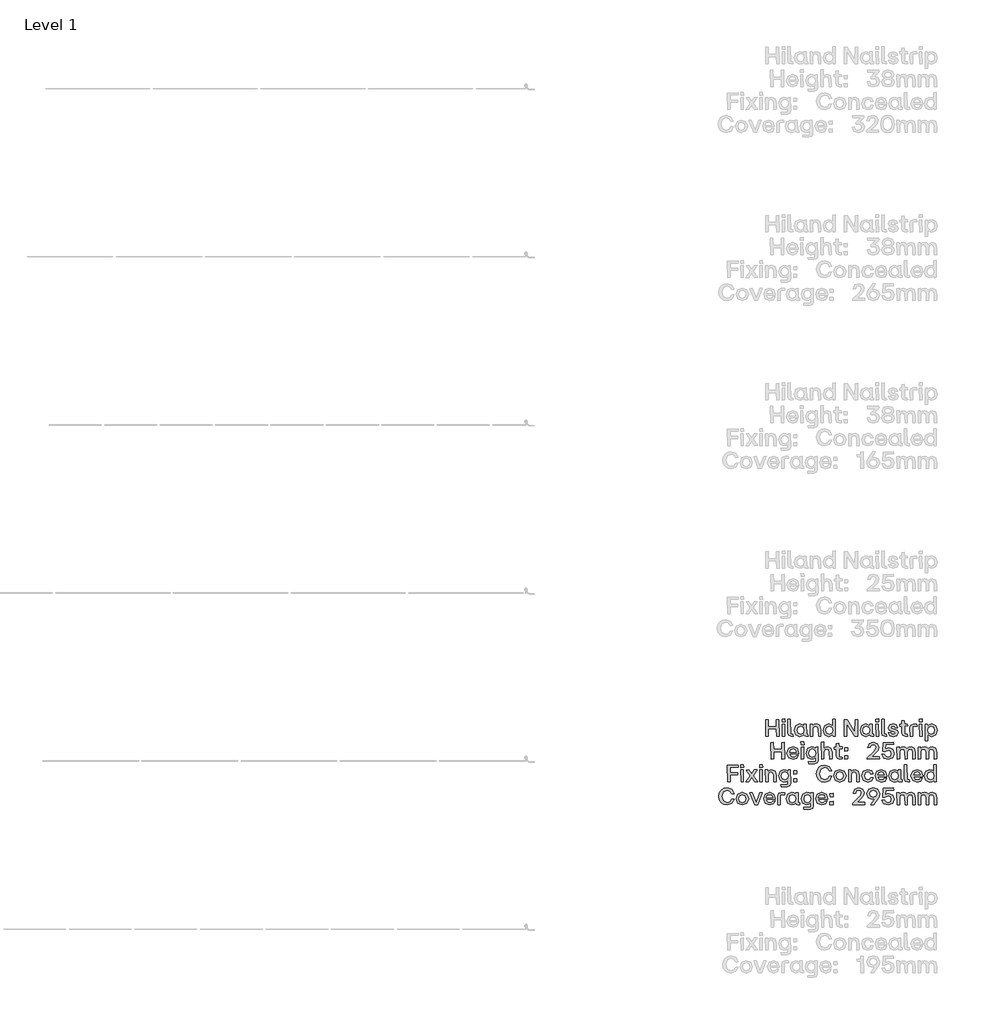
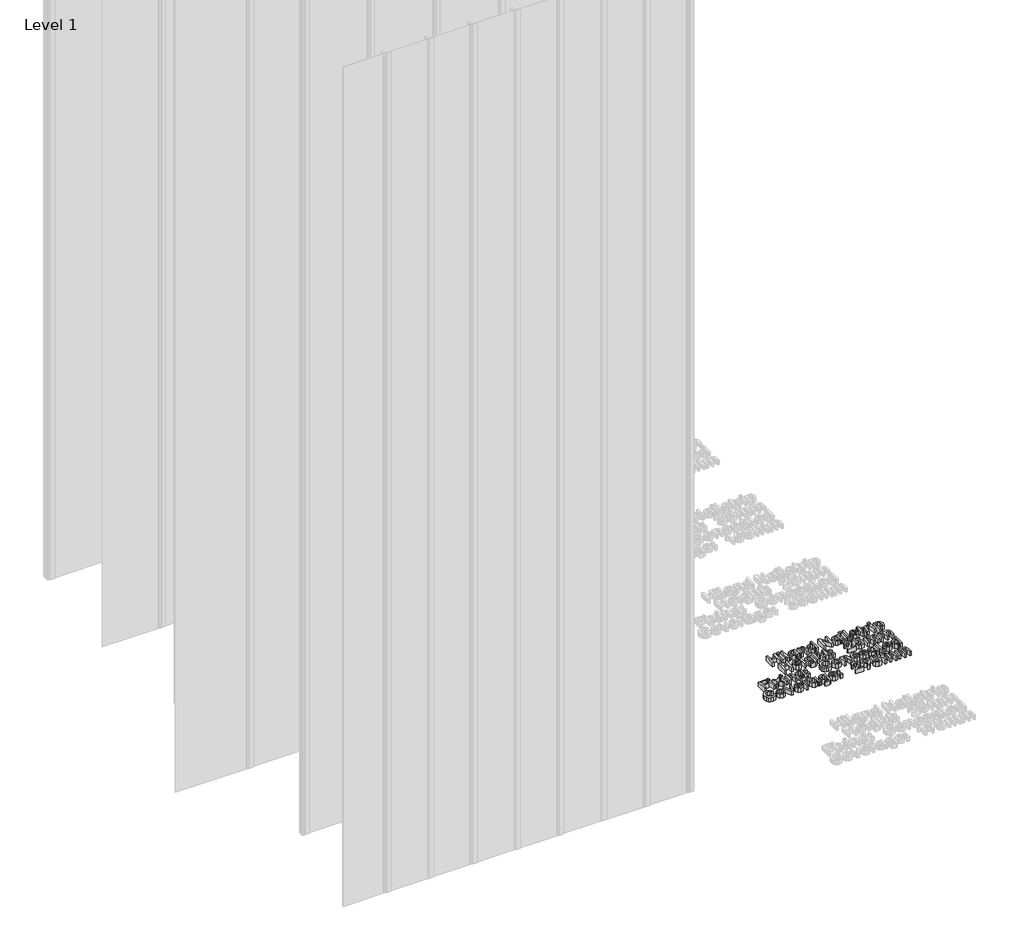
# One storey, part 24 of 64: 1 proxy.
"""IFC4 building model written with IfcOpenShell, lengths in millimetres."""

from ifc_helpers import new_model, si_unit, origin, origin_with_axes, place, context, project, spatial, polyline, outline, extrude, element, save

model = new_model("IFC4")

# Units and contexts
model_context = context("Model", 3, world=origin())
ifc_project = project(units=[si_unit("LENGTHUNIT", "METRE", prefix="MILLI")], contexts=[model_context])

# Site, building, storey
site = spatial("IfcSite", under=ifc_project)
building = spatial("IfcBuilding", under=site)
storey = spatial("IfcBuildingStorey", under=building, Name="Level 1", Elevation=0.0)

# Proxy
placement = place(None, origin())
element("IfcBuildingElementProxy", 1, Name="50mm", ObjectType="50mm", at=placement, inside=storey, context=model_context, shape_type="SweptSolid", body=[
    extrude(outline(polyline([(2520.0683519, -3933.5188866), (2519.3710201, -3911.5808277), (2495.5222721, -3911.5808277), (2495.5222721, -3932.8215548), (2488.0189817, -3933.5188866), (2487.2937566, -3884.2454206), (2494.7831003, -3883.5201955), (2495.5222721, -3904.6075096), (2519.3710201, -3904.6075096), (2519.3710201, -3884.2454206), (2526.8603638, -3883.5201955), (2527.5576956, -3932.8215548), (2520.0683519, -3933.5188866)])), origin_with_axes(), (0.0, 0.0, 1.0), 20.0),
    extrude(outline(polyline([(2537.6550603, -3933.5188866), (2536.9298352, -3897.8154977), (2544.1402462, -3897.1181659), (2544.837578, -3932.8215548), (2537.6550603, -3933.5188866)])), origin_with_axes(), (0.0, 0.0, 1.0), 20.0),
    extrude(outline(polyline([(2536.7206357, -3890.4516737), (2536.3719698, -3882.4044646), (2544.7678448, -3881.6652929), (2545.5070165, -3890.1030078), (2536.7206357, -3890.4516737)])), origin_with_axes(), (0.0, 0.0, 1.0), 20.0),
    extrude(outline(polyline([(2564.2373491, -3933.5188866), (2556.5388058, -3930.8690257), (2553.8889449, -3923.1565359), (2553.8889449, -3882.8228637), (2561.0993559, -3882.083692), (2561.7966877, -3927.2429003), (2568.4631799, -3927.2429003), (2569.1605117, -3932.8215548), (2564.2373491, -3933.5188866)])), origin_with_axes(), (0.0, 0.0, 1.0), 20.0),
    extrude(outline(polyline([(2589.3273478, -3933.9372857), (2577.5563867, -3928.8955767), (2573.1771429, -3915.3882594), (2577.5563867, -3901.7484491), (2589.3273478, -3896.6579269), (2595.9450267, -3898.2617901), (2600.9309491, -3902.6549805), (2601.2517218, -3897.8154977), (2608.4342395, -3897.1181659), (2609.1594646, -3927.2429003), (2613.1063626, -3927.2429003), (2613.8036944, -3932.8215548), (2607.8066408, -3933.5188866), (2603.151951, -3932.2113895), (2601.6003877, -3928.288898), (2596.2448794, -3932.3334225), (2589.3273478, -3933.9372857)]), holes=[polyline([(2581.2382987, -3915.3882594), (2583.9927594, -3924.2792401), (2591.5169696, -3927.521833), (2598.8807936, -3924.2931867), (2601.5306545, -3915.3882594), (2598.8598737, -3906.392679), (2591.5169696, -3903.1152195), (2583.9927594, -3906.392679), (2581.2382987, -3915.3882594)])]), origin_with_axes(), (0.0, 0.0, 1.0), 20.0),
    extrude(outline(polyline([(2620.6654395, -3933.5188866), (2619.9402144, -3897.8154977), (2626.8019595, -3897.1181659), (2627.4992913, -3902.6549805), (2632.6630334, -3898.1571903), (2639.2841989, -3896.6579269), (2648.8446181, -3900.8419178), (2652.1569442, -3913.0870644), (2652.1569442, -3932.8215548), (2644.9325866, -3933.5188866), (2644.2073616, -3913.0870644), (2642.2548325, -3905.7092939), (2636.0834459, -3903.3941522), (2629.8562728, -3905.7441604), (2627.8479572, -3913.0870644), (2627.8479572, -3932.8215548), (2620.6654395, -3933.5188866)])), origin_with_axes(), (0.0, 0.0, 1.0), 20.0),
    extrude(outline(polyline([(2675.0154811, -3933.9372857), (2663.2445201, -3928.8955767), (2658.8652763, -3915.3882594), (2663.2445201, -3901.7484491), (2675.0154811, -3896.6579269), (2681.63316, -3898.2617901), (2686.6190825, -3902.6549805), (2686.9398552, -3882.8228637), (2694.1223728, -3882.083692), (2694.8475979, -3932.8215548), (2687.9858529, -3933.5188866), (2687.2885211, -3928.0099653), (2681.9330127, -3932.3334225), (2675.0154811, -3933.9372857)]), holes=[polyline([(2666.9264321, -3915.3882594), (2669.6808927, -3924.2792401), (2677.205103, -3927.521833), (2684.568927, -3924.2931867), (2687.2187879, -3915.3882594), (2684.548007, -3906.392679), (2677.205103, -3903.1152195), (2669.6808927, -3906.392679), (2666.9264321, -3915.3882594)])]), origin_with_axes(), (0.0, 0.0, 1.0), 20.0),
    extrude(outline(polyline([(2721.8761791, -3933.5188866), (2721.150954, -3884.2454206), (2730.007068, -3883.5201955), (2753.2979506, -3920.7856077), (2753.5768834, -3884.2454206), (2760.7872943, -3883.5201955), (2761.4846261, -3932.8215548), (2752.670352, -3933.5188866), (2729.3794694, -3896.2395278), (2729.1005367, -3932.8215548), (2721.8761791, -3933.5188866)])), origin_with_axes(), (0.0, 0.0, 1.0), 20.0),
    extrude(outline(polyline([(2784.803402, -3933.9372857), (2773.032441, -3928.8955767), (2768.6531972, -3915.3882594), (2773.032441, -3901.7484491), (2784.803402, -3896.6579269), (2791.4210809, -3898.2617901), (2796.4070034, -3902.6549805), (2796.727776, -3897.8154977), (2803.9102937, -3897.1181659), (2804.6355188, -3927.2429003), (2808.5824169, -3927.2429003), (2809.2797487, -3932.8215548), (2803.2826951, -3933.5188866), (2798.6280052, -3932.2113895), (2797.076442, -3928.288898), (2791.7209336, -3932.3334225), (2784.803402, -3933.9372857)]), holes=[polyline([(2776.714353, -3915.3882594), (2779.4688136, -3924.2792401), (2786.9930239, -3927.521833), (2794.3568479, -3924.2931867), (2797.0067088, -3915.3882594), (2794.3359279, -3906.392679), (2786.9930239, -3903.1152195), (2779.4688136, -3906.392679), (2776.714353, -3915.3882594)])]), origin_with_axes(), (0.0, 0.0, 1.0), 20.0),
    extrude(outline(polyline([(2815.2070691, -3890.4516737), (2814.8584032, -3882.4044646), (2823.2542783, -3881.6652929), (2823.99345, -3890.1030078), (2815.2070691, -3890.4516737)])), origin_with_axes(), (0.0, 0.0, 1.0), 20.0),
    extrude(outline(polyline([(2816.1414938, -3933.5188866), (2815.4162687, -3897.8154977), (2822.6266796, -3897.1181659), (2823.3240115, -3932.8215548), (2816.1414938, -3933.5188866)])), origin_with_axes(), (0.0, 0.0, 1.0), 20.0),
    extrude(outline(polyline([(2842.7237825, -3933.5188866), (2835.0252393, -3930.8690257), (2832.3753784, -3923.1565359), (2832.3753784, -3882.8228637), (2839.5857894, -3882.083692), (2840.2831212, -3927.2429003), (2846.9496133, -3927.2429003), (2847.6469451, -3932.8215548), (2842.7237825, -3933.5188866)])), origin_with_axes(), (0.0, 0.0, 1.0), 20.0),
    extrude(outline(polyline([(2867.283809, -3933.9372857), (2856.5518724, -3930.9875721), (2852.0819755, -3922.5289372), (2859.0274004, -3921.7339789), (2862.109607, -3926.5455685), (2867.283809, -3927.8007657), (2871.7467327, -3926.6153017), (2873.420329, -3923.4354686), (2872.2209183, -3920.5764081), (2868.1624471, -3919.0841181), (2863.0719249, -3918.1775867), (2855.3454884, -3914.6351411), (2852.8490405, -3907.5363032), (2856.5100325, -3899.6215871), (2866.3772777, -3896.6579269), (2876.0701899, -3899.4123876), (2880.2960207, -3907.2294772), (2873.3505958, -3908.0244355), (2870.6031085, -3903.8613645), (2866.3772777, -3902.7944469), (2862.1235536, -3903.8962311), (2860.6591568, -3907.0900108), (2861.7051545, -3909.8584181), (2865.5125862, -3911.3716282), (2870.9517744, -3912.3897326), (2878.9641169, -3915.8763917), (2881.2304453, -3923.0170695), (2877.6043199, -3931.1130919), (2867.283809, -3933.9372857)])), origin_with_axes(), (0.0, 0.0, 1.0), 20.0),
    extrude(outline(polyline([(2903.0429845, -3933.5188866), (2895.3304946, -3930.8690257), (2892.6806337, -3923.1565359), (2892.6806337, -3903.3941522), (2886.4743806, -3903.3941522), (2885.7491555, -3897.8154977), (2892.6806337, -3897.1181659), (2892.6806337, -3887.104481), (2899.9049913, -3886.3792559), (2900.6023231, -3897.1181659), (2909.388704, -3897.1181659), (2910.1139291, -3902.6549805), (2900.6023231, -3903.3941522), (2900.6023231, -3927.2429003), (2909.388704, -3927.2429003), (2910.1139291, -3932.8215548), (2903.0429845, -3933.5188866)])), origin_with_axes(), (0.0, 0.0, 1.0), 20.0),
    extrude(outline(polyline([(2917.519593, -3933.5188866), (2916.8222612, -3907.4386768), (2919.4721221, -3899.7471068), (2927.1706653, -3897.1181659), (2937.3238165, -3897.1181659), (2938.0211483, -3903.1152195), (2924.7300039, -3903.8125513), (2924.7300039, -3932.8215548), (2917.519593, -3933.5188866)])), origin_with_axes(), (0.0, 0.0, 1.0), 20.0),
    extrude(outline(polyline([(2945.5662786, -3933.5188866), (2944.8410535, -3897.8154977), (2952.0514644, -3897.1181659), (2952.7487962, -3932.8215548), (2945.5662786, -3933.5188866)])), origin_with_axes(), (0.0, 0.0, 1.0), 20.0),
    extrude(outline(polyline([(2944.6318539, -3890.4516737), (2944.283188, -3882.4044646), (2952.6790631, -3881.6652929), (2953.4182348, -3890.1030078), (2944.6318539, -3890.4516737)])), origin_with_axes(), (0.0, 0.0, 1.0), 20.0),
    extrude(outline(polyline([(2962.5253883, -3947.0750171), (2961.8001632, -3897.8154977), (2968.6619083, -3897.1181659), (2969.3592401, -3902.5852473), (2974.7147484, -3898.2617901), (2981.63228, -3896.6579269), (2993.403241, -3901.7135826), (2997.7824848, -3915.2487931), (2993.403241, -3928.8607101), (2981.63228, -3933.9372857), (2975.0146011, -3932.3334225), (2970.0286786, -3927.9402321), (2969.707906, -3946.3776853), (2962.5253883, -3947.0750171)]), holes=[polyline([(2969.4289732, -3915.2487931), (2972.0997541, -3924.2443735), (2979.4426581, -3927.521833), (2986.9668684, -3924.2443735), (2989.7213291, -3915.2487931), (2986.9668684, -3906.3578124), (2979.4426581, -3903.1152195), (2972.0788341, -3906.3368925), (2969.4289732, -3915.2487931)])]), origin_with_axes(), (0.0, 0.0, 1.0), 20.0),
    extrude(outline(polyline([(2536.1348769, -4001.3705811), (2535.4375451, -3979.4325222), (2511.5887971, -3979.4325222), (2511.5887971, -4000.6732493), (2504.0855067, -4001.3705811), (2503.3602816, -3952.0971151), (2510.8496253, -3951.37189), (2511.5887971, -3972.459204), (2535.4375451, -3972.459204), (2535.4375451, -3952.0971151), (2542.9268888, -3951.37189), (2543.6242206, -4000.6732493), (2536.1348769, -4001.3705811)])), origin_with_axes(), (0.0, 0.0, 1.0), 20.0),
    extrude(outline(polyline([(2569.2720848, -4001.7889802), (2555.8693673, -3996.7472711), (2550.8625249, -3983.2399539), (2555.8484473, -3969.586197), (2569.2720848, -3964.5096214), (2581.552098, -3969.5164638), (2586.0498882, -3983.1702207), (2586.0498882, -3985.0809099), (2558.9934138, -3985.8200816), (2562.0616738, -3992.8631329), (2569.2720848, -3995.3735275), (2575.0599388, -3994.0974102), (2578.0584656, -3990.520098), (2585.1433569, -3989.9343393), (2580.4851803, -3998.6998002), (2569.2720848, -4001.7889802)]), holes=[polyline([(2559.063147, -3980.0322275), (2578.2676652, -3980.0322275), (2575.6247776, -3973.3866554), (2569.2720848, -3970.966914), (2562.1802202, -3973.2681089), (2559.063147, -3980.0322275)])]), origin_with_axes(), (0.0, 0.0, 1.0), 20.0),
    extrude(outline(polyline([(2592.9534732, -3958.3033682), (2592.6048073, -3950.2561591), (2601.0006823, -3949.5169873), (2601.7398541, -3957.9547023), (2592.9534732, -3958.3033682)])), origin_with_axes(), (0.0, 0.0, 1.0), 20.0),
    extrude(outline(polyline([(2593.8878978, -4001.3705811), (2593.1626727, -3965.6671922), (2600.3730837, -3964.9698603), (2601.0704155, -4000.6732493), (2593.8878978, -4001.3705811)])), origin_with_axes(), (0.0, 0.0, 1.0), 20.0),
    extrude(outline(polyline([(2615.5609706, -4014.9267115), (2614.8217989, -4009.348057), (2636.062526, -4008.6507252), (2636.062526, -3995.7919266), (2630.7558309, -4000.185117), (2624.1381519, -4001.7889802), (2612.3671909, -3996.7124045), (2607.9879471, -3983.1004875), (2612.3671909, -3969.565277), (2624.1381519, -3964.5096214), (2631.0556835, -3966.1134845), (2636.1322591, -3970.4369418), (2636.4111919, -3965.6671922), (2643.2450437, -3964.9698603), (2643.9702687, -4004.9269733), (2641.390141, -4012.3675038), (2633.9705305, -4014.9267115), (2615.5609706, -4014.9267115)]), holes=[polyline([(2616.0491029, -3983.1004875), (2618.8035636, -3992.0960679), (2626.3277738, -3995.3735275), (2633.6706778, -3992.0960679), (2636.3414587, -3983.1004875), (2633.6915978, -3974.1885869), (2626.3277738, -3970.966914), (2618.8035636, -3974.2095069), (2616.0491029, -3983.1004875)])]), origin_with_axes(), (0.0, 0.0, 1.0), 20.0),
    extrude(outline(polyline([(2653.6910742, -4001.3705811), (2652.9658492, -3950.6745581), (2660.1762601, -3949.9353864), (2660.8735919, -3970.2277422), (2665.9606275, -3965.9391516), (2672.3098337, -3964.5096214), (2681.8702529, -3968.6936122), (2685.182579, -3980.9387589), (2685.182579, -4000.6732493), (2677.9582214, -4001.3705811), (2677.2329963, -3980.9387589), (2675.2804672, -3973.5609883), (2669.1090807, -3971.2458467), (2662.8819076, -3973.5958549), (2660.8735919, -3980.9387589), (2660.8735919, -4000.6732493), (2653.6910742, -4001.3705811)])), origin_with_axes(), (0.0, 0.0, 1.0), 20.0),
    extrude(outline(polyline([(2708.459515, -4001.3705811), (2700.7470251, -3998.7207202), (2698.0971642, -3991.0082303), (2698.0971642, -3971.2458467), (2691.890911, -3971.2458467), (2691.165686, -3965.6671922), (2698.0971642, -3964.9698603), (2698.0971642, -3954.9561755), (2705.3215218, -3954.2309504), (2706.0188536, -3964.9698603), (2714.8052345, -3964.9698603), (2715.5304596, -3970.506675), (2706.0188536, -3971.2458467), (2706.0188536, -3995.0945947), (2714.8052345, -3995.0945947), (2715.5304596, -4000.6732493), (2708.459515, -4001.3705811)])), origin_with_axes(), (0.0, 0.0, 1.0), 20.0),
    extrude(outline(polyline([(2722.9361234, -3977.7310326), (2722.2387916, -3968.1078535), (2731.7225043, -3967.3686818), (2732.4477294, -3977.0337007), (2722.9361234, -3977.7310326)])), origin_with_axes(), (0.0, 0.0, 1.0), 20.0),
    extrude(outline(polyline([(2722.5874575, -4001.0219152), (2722.2387916, -3991.747402), (2731.7225043, -3991.0082303), (2732.4477294, -4000.6732493), (2722.5874575, -4001.0219152)])), origin_with_axes(), (0.0, 0.0, 1.0), 20.0),
    extrude(outline(polyline([(2790.4238964, -4001.3705811), (2789.6986714, -3996.5868848), (2807.0622335, -3980.590093), (2814.2098846, -3972.6753769), (2816.1972803, -3965.3882594), (2814.216858, -3959.7084918), (2808.2755909, -3957.8152359), (2801.4068725, -3959.8932847), (2798.5547854, -3966.4621504), (2791.1212283, -3967.1594822), (2795.7096716, -3954.9631488), (2808.2755909, -3950.9534909), (2820.1023385, -3954.8236824), (2824.4257957, -3965.3882594), (2821.7410682, -3975.1648515), (2812.5711549, -3985.5690422), (2803.1153355, -3994.0764903), (2825.8483526, -3994.355423), (2826.5456844, -4000.6732493), (2790.4238964, -4001.3705811)])), origin_with_axes(), (0.0, 0.0, 1.0), 20.0),
    extrude(outline(polyline([(2851.8030428, -4001.7889802), (2838.6025515, -3998.0931215), (2832.7937775, -3987.3821049), (2840.1576015, -3986.5871466), (2844.365999, -3993.0200326), (2851.8030428, -3994.9551284), (2859.2087066, -3992.2704009), (2861.802781, -3984.6625108), (2859.2226533, -3977.3614467), (2851.6635764, -3974.8719721), (2841.3012256, -3978.8049235), (2836.4617428, -3978.5259908), (2837.5077406, -3952.0971151), (2867.1443427, -3951.37189), (2867.8695678, -3957.6757696), (2844.1602861, -3958.3731014), (2843.3653278, -3971.0366471), (2848.5395299, -3968.8400519), (2854.2437041, -3968.0381203), (2865.7984923, -3972.4661774), (2870.0034031, -3984.6625108), (2865.1918136, -3997.27027), (2851.8030428, -4001.7889802)])), origin_with_axes(), (0.0, 0.0, 1.0), 20.0),
    extrude(outline(polyline([(2878.6224244, -4001.3705811), (2877.8971993, -3965.6671922), (2884.7589443, -3964.9698603), (2885.4562761, -3970.506675), (2890.4421986, -3966.0088848), (2896.8925179, -3964.5096214), (2903.1789642, -3966.0088848), (2907.394335, -3970.506675), (2913.2170557, -3966.0646713), (2920.4623332, -3964.5096214), (2929.7368464, -3968.6796656), (2932.9445727, -3980.9387589), (2932.9445727, -4000.6732493), (2925.7341617, -4001.3705811), (2925.0368299, -3980.9387589), (2923.154034, -3973.5609883), (2917.1848737, -3971.2458467), (2911.2784732, -3973.5958549), (2909.3747574, -3980.9387589), (2909.3747574, -4000.6732493), (2902.1643464, -4001.3705811), (2901.4670146, -3980.9387589), (2899.5981653, -3973.5609883), (2893.6847915, -3971.2458467), (2887.7086579, -3973.5958549), (2885.804942, -3980.9387589), (2885.804942, -4000.6732493), (2878.6224244, -4001.3705811)])), origin_with_axes(), (0.0, 0.0, 1.0), 20.0),
    extrude(outline(polyline([(2941.9959397, -4001.3705811), (2941.2707146, -3965.6671922), (2948.1324596, -3964.9698603), (2948.8297914, -3970.506675), (2953.8157139, -3966.0088848), (2960.2660332, -3964.5096214), (2966.5524795, -3966.0088848), (2970.7678503, -3970.506675), (2976.590571, -3966.0646713), (2983.8358485, -3964.5096214), (2993.1103617, -3968.6796656), (2996.318088, -3980.9387589), (2996.318088, -4000.6732493), (2989.1076771, -4001.3705811), (2988.4103452, -3980.9387589), (2986.5275493, -3973.5609883), (2980.558389, -3971.2458467), (2974.6519885, -3973.5958549), (2972.7482727, -3980.9387589), (2972.7482727, -4000.6732493), (2965.5378617, -4001.3705811), (2964.8405299, -3980.9387589), (2962.9716806, -3973.5609883), (2957.0583069, -3971.2458467), (2951.0821732, -3973.5958549), (2949.1784574, -3980.9387589), (2949.1784574, -4000.6732493), (2941.9959397, -4001.3705811)])), origin_with_axes(), (0.0, 0.0, 1.0), 20.0),
    extrude(outline(polyline([(2374.6607219, -4069.2222755), (2373.9354969, -4019.9488095), (2405.5246281, -4019.2235844), (2406.2219599, -4025.527464), (2382.1640123, -4026.2247958), (2382.1640123, -4041.287163), (2404.0881245, -4041.287163), (2404.7854563, -4047.5631494), (2382.1640123, -4048.3023211), (2382.1640123, -4068.5249437), (2374.6607219, -4069.2222755)])), origin_with_axes(), (0.0, 0.0, 1.0), 20.0),
    extrude(outline(polyline([(2414.4783686, -4069.2222755), (2413.7531435, -4033.5188866), (2420.9635544, -4032.8215548), (2421.6608863, -4068.5249437), (2414.4783686, -4069.2222755)])), origin_with_axes(), (0.0, 0.0, 1.0), 20.0),
    extrude(outline(polyline([(2413.5439439, -4026.1550627), (2413.195278, -4018.1078535), (2421.5911531, -4017.3686818), (2422.3303248, -4025.8063967), (2413.5439439, -4026.1550627)])), origin_with_axes(), (0.0, 0.0, 1.0), 20.0),
    extrude(outline(polyline([(2428.5784179, -4069.2222755), (2441.3395901, -4050.7429824), (2429.1362833, -4033.658353), (2437.1277059, -4032.8215548), (2445.9140868, -4044.815662), (2454.1426022, -4033.2399539), (2462.2595445, -4032.8215548), (2450.6559431, -4049.9340775), (2463.696048, -4068.3436374), (2455.7046254, -4069.2222755), (2445.9838199, -4055.7916648), (2436.7093068, -4068.8038764), (2428.5784179, -4069.2222755)])), origin_with_axes(), (0.0, 0.0, 1.0), 20.0),
    extrude(outline(polyline([(2470.7112061, -4069.2222755), (2469.985981, -4033.5188866), (2477.196392, -4032.8215548), (2477.8937238, -4068.5249437), (2470.7112061, -4069.2222755)])), origin_with_axes(), (0.0, 0.0, 1.0), 20.0),
    extrude(outline(polyline([(2469.7767815, -4026.1550627), (2469.4281156, -4018.1078535), (2477.8239906, -4017.3686818), (2478.5631623, -4025.8063967), (2469.7767815, -4026.1550627)])), origin_with_axes(), (0.0, 0.0, 1.0), 20.0),
    extrude(outline(polyline([(2487.6703158, -4069.2222755), (2486.9450907, -4033.5188866), (2493.8068358, -4032.8215548), (2494.5041676, -4038.3583694), (2499.6679097, -4033.8605792), (2506.2890753, -4032.3613158), (2515.8494944, -4036.5453067), (2519.1618206, -4048.7904534), (2519.1618206, -4068.5249437), (2511.937463, -4069.2222755), (2511.2122379, -4048.7904534), (2509.2597088, -4041.4126828), (2503.0883222, -4039.0975411), (2496.8611491, -4041.4475493), (2494.8528335, -4048.7904534), (2494.8528335, -4068.5249437), (2487.6703158, -4069.2222755)])), origin_with_axes(), (0.0, 0.0, 1.0), 20.0),
    extrude(outline(polyline([(2533.4431761, -4082.778406), (2532.7040044, -4077.1997515), (2553.9447315, -4076.5024197), (2553.9447315, -4063.643621), (2548.6380364, -4068.0368114), (2542.0203574, -4069.6406746), (2530.2493964, -4064.564099), (2525.8701526, -4050.952182), (2530.2493964, -4037.4169715), (2542.0203574, -4032.3613158), (2548.9378891, -4033.965179), (2554.0144647, -4038.2886362), (2554.2933974, -4033.5188866), (2561.1272492, -4032.8215548), (2561.8524743, -4072.7786678), (2559.2723465, -4080.2191982), (2551.852736, -4082.778406), (2533.4431761, -4082.778406)]), holes=[polyline([(2533.9313084, -4050.952182), (2536.6857691, -4059.9477624), (2544.2099793, -4063.2252219), (2551.5528834, -4059.9477624), (2554.2236642, -4050.952182), (2551.5738033, -4042.0402814), (2544.2099793, -4038.8186084), (2536.6857691, -4042.0612013), (2533.9313084, -4050.952182)])]), origin_with_axes(), (0.0, 0.0, 1.0), 20.0),
    extrude(outline(polyline([(2571.1967206, -4045.582727), (2570.4993888, -4035.959548), (2579.9831014, -4035.2203762), (2580.7083265, -4044.8853952), (2571.1967206, -4045.582727)])), origin_with_axes(), (0.0, 0.0, 1.0), 20.0),
    extrude(outline(polyline([(2570.8480547, -4068.8736096), (2570.4993888, -4059.5990965), (2579.9831014, -4058.8599248), (2580.7083265, -4068.5249437), (2570.8480547, -4068.8736096)])), origin_with_axes(), (0.0, 0.0, 1.0), 20.0),
    extrude(outline(polyline([(2662.9516407, -4069.6406746), (2652.9449292, -4067.9269817), (2645.2394126, -4062.7859029), (2640.3232234, -4054.7160305), (2638.6844936, -4044.2159567), (2640.33717, -4033.8919591), (2645.2951992, -4025.7924501), (2653.0146624, -4020.5520015), (2662.9516407, -4018.8051853), (2677.1283965, -4023.4215219), (2684.0807947, -4035.7085085), (2676.7588107, -4036.5174134), (2671.5950686, -4028.3272513), (2662.9516407, -4025.8063967), (2651.2922528, -4030.743506), (2647.0524754, -4044.2159567), (2651.2713328, -4057.7999804), (2662.9516407, -4062.6673565), (2671.7659149, -4060.1813685), (2676.4519847, -4052.7234048), (2683.8715952, -4052.0679129), (2677.4073293, -4065.0382846), (2662.9516407, -4069.6406746)])), origin_with_axes(), (0.0, 0.0, 1.0), 20.0),
    extrude(outline(polyline([(2708.306102, -4069.6406746), (2695.1474506, -4064.5152858), (2690.1057416, -4051.0916483), (2695.1613973, -4037.5564378), (2708.306102, -4032.3613158), (2721.5763264, -4037.5564378), (2726.6459287, -4051.0916483), (2721.5763264, -4064.5152858), (2708.306102, -4069.6406746)]), holes=[polyline([(2698.1668974, -4051.0916483), (2700.8655715, -4059.9965756), (2708.306102, -4063.2252219), (2715.8442589, -4059.982629), (2718.5987195, -4051.0916483), (2715.8582055, -4042.0960679), (2708.306102, -4038.8186084), (2700.8655715, -4042.0960679), (2698.1668974, -4051.0916483)])]), origin_with_axes(), (0.0, 0.0, 1.0), 20.0),
    extrude(outline(polyline([(2734.916284, -4069.2222755), (2734.1910589, -4033.5188866), (2741.052804, -4032.8215548), (2741.7501358, -4038.3583694), (2746.9138779, -4033.8605792), (2753.5350435, -4032.3613158), (2763.0954626, -4036.5453067), (2766.4077887, -4048.7904534), (2766.4077887, -4068.5249437), (2759.1834311, -4069.2222755), (2758.4582061, -4048.7904534), (2756.505677, -4041.4126828), (2750.3342904, -4039.0975411), (2744.1071173, -4041.4475493), (2742.0988017, -4048.7904534), (2742.0988017, -4068.5249437), (2734.916284, -4069.2222755)])), origin_with_axes(), (0.0, 0.0, 1.0), 20.0),
    extrude(outline(polyline([(2791.4559475, -4069.6406746), (2778.1229632, -4064.5989656), (2773.1161208, -4051.0916483), (2778.1926964, -4037.5564378), (2791.4559475, -4032.3613158), (2802.5295767, -4035.7991616), (2807.7456187, -4044.8853952), (2800.7304607, -4045.6524602), (2797.1601218, -4040.3527384), (2791.4559475, -4038.8186084), (2783.8968707, -4042.0960679), (2781.1772766, -4051.0916483), (2783.9108173, -4060.0174956), (2791.4559475, -4063.2252219), (2797.3344547, -4061.7608251), (2800.3120616, -4057.0189688), (2807.3969528, -4056.3495302), (2802.7387763, -4066.2028288), (2791.4559475, -4069.6406746)])), origin_with_axes(), (0.0, 0.0, 1.0), 20.0),
    extrude(outline(polyline([(2831.6919932, -4069.6406746), (2818.2892758, -4064.5989656), (2813.2824333, -4051.0916483), (2818.2683558, -4037.4378914), (2831.6919932, -4032.3613158), (2843.9720065, -4037.3681582), (2848.4697967, -4051.0219152), (2848.4697967, -4052.9326043), (2821.4133223, -4053.6717761), (2824.4815823, -4060.7148274), (2831.6919932, -4063.2252219), (2837.4798473, -4061.9491047), (2840.4783741, -4058.3717925), (2847.5632653, -4057.7860338), (2842.9050888, -4066.5514947), (2831.6919932, -4069.6406746)]), holes=[polyline([(2821.4830555, -4047.883922), (2840.6875736, -4047.883922), (2838.0446861, -4041.2383498), (2831.6919932, -4038.8186084), (2824.6001287, -4041.1198034), (2821.4830555, -4047.883922)])]), origin_with_axes(), (0.0, 0.0, 1.0), 20.0),
    extrude(outline(polyline([(2869.5989507, -4069.6406746), (2857.8279896, -4064.5989656), (2853.4487458, -4051.0916483), (2857.8279896, -4037.4518381), (2869.5989507, -4032.3613158), (2876.2166296, -4033.965179), (2881.2025521, -4038.3583694), (2881.5233247, -4033.5188866), (2888.7058424, -4032.8215548), (2889.4310675, -4062.9462892), (2893.3779655, -4062.9462892), (2894.0752974, -4068.5249437), (2888.0782438, -4069.2222755), (2883.4235539, -4067.9147784), (2881.8719906, -4063.9922869), (2876.5164823, -4068.0368114), (2869.5989507, -4069.6406746)]), holes=[polyline([(2861.5099016, -4051.0916483), (2864.2643623, -4059.982629), (2871.7885726, -4063.2252219), (2879.1523965, -4059.9965756), (2881.8022574, -4051.0916483), (2879.1314766, -4042.0960679), (2871.7885726, -4038.8186084), (2864.2643623, -4042.0960679), (2861.5099016, -4051.0916483)])]), origin_with_axes(), (0.0, 0.0, 1.0), 20.0),
    extrude(outline(polyline([(2910.5602215, -4069.2222755), (2902.8616782, -4066.5724146), (2900.2118173, -4058.8599248), (2900.2118173, -4018.5262526), (2907.4222283, -4017.7870809), (2908.1195601, -4062.9462892), (2914.7860523, -4062.9462892), (2915.4833841, -4068.5249437), (2910.5602215, -4069.2222755)])), origin_with_axes(), (0.0, 0.0, 1.0), 20.0),
    extrude(outline(polyline([(2937.9095752, -4069.6406746), (2924.5068578, -4064.5989656), (2919.5000153, -4051.0916483), (2924.4859378, -4037.4378914), (2937.9095752, -4032.3613158), (2950.1895885, -4037.3681582), (2954.6873787, -4051.0219152), (2954.6873787, -4052.9326043), (2927.6309043, -4053.6717761), (2930.6991643, -4060.7148274), (2937.9095752, -4063.2252219), (2943.6974293, -4061.9491047), (2946.6959561, -4058.3717925), (2953.7808473, -4057.7860338), (2949.1226708, -4066.5514947), (2937.9095752, -4069.6406746)]), holes=[polyline([(2927.7006375, -4047.883922), (2946.9051556, -4047.883922), (2944.2622681, -4041.2383498), (2937.9095752, -4038.8186084), (2930.8177107, -4041.1198034), (2927.7006375, -4047.883922)])]), origin_with_axes(), (0.0, 0.0, 1.0), 20.0),
    extrude(outline(polyline([(2975.8165327, -4069.6406746), (2964.0455716, -4064.5989656), (2959.6663278, -4051.0916483), (2964.0455716, -4037.4518381), (2975.8165327, -4032.3613158), (2982.4342116, -4033.965179), (2987.4201341, -4038.3583694), (2987.7409067, -4018.5262526), (2994.9234244, -4017.7870809), (2995.6486495, -4068.5249437), (2988.7869044, -4069.2222755), (2988.0895726, -4063.7133542), (2982.7340643, -4068.0368114), (2975.8165327, -4069.6406746)]), holes=[polyline([(2967.7274836, -4051.0916483), (2970.4819443, -4059.982629), (2978.0061546, -4063.2252219), (2985.3699785, -4059.9965756), (2988.0198394, -4051.0916483), (2985.3490586, -4042.0960679), (2978.0061546, -4038.8186084), (2970.4819443, -4042.0960679), (2967.7274836, -4051.0916483)])]), origin_with_axes(), (0.0, 0.0, 1.0), 20.0),
    extrude(outline(polyline([(2372.8616059, -4137.4923691), (2362.8548943, -4135.7786761), (2355.1493778, -4130.6375973), (2350.2331885, -4122.5677249), (2348.5944587, -4112.0676511), (2350.2471351, -4101.7436536), (2355.2051643, -4093.6441446), (2362.9246275, -4088.403696), (2372.8616059, -4086.6568798), (2387.0383617, -4091.2732164), (2393.9907598, -4103.560203), (2386.6687758, -4104.3691079), (2381.5050337, -4096.1789457), (2372.8616059, -4093.6580912), (2361.2022179, -4098.5952004), (2356.9624405, -4112.0676511), (2361.181298, -4125.6516749), (2372.8616059, -4130.5190509), (2381.67588, -4128.033063), (2386.3619498, -4120.5750992), (2393.7815603, -4119.9196073), (2387.3172944, -4132.8899791), (2372.8616059, -4137.4923691)])), origin_with_axes(), (0.0, 0.0, 1.0), 20.0),
    extrude(outline(polyline([(2418.2160671, -4137.4923691), (2405.0574157, -4132.3669802), (2400.0157067, -4118.9433428), (2405.0713624, -4105.4081323), (2418.2160671, -4100.2130103), (2431.4862915, -4105.4081323), (2436.5558938, -4118.9433428), (2431.4862915, -4132.3669802), (2418.2160671, -4137.4923691)]), holes=[polyline([(2408.0768625, -4118.9433428), (2410.7755366, -4127.8482701), (2418.2160671, -4131.0769164), (2425.754224, -4127.8343234), (2428.5086847, -4118.9433428), (2425.7681706, -4109.9477624), (2418.2160671, -4106.6703029), (2410.7755366, -4109.9477624), (2408.0768625, -4118.9433428)])]), origin_with_axes(), (0.0, 0.0, 1.0), 20.0),
    extrude(outline(polyline([(2454.6586277, -4137.07397), (2440.2656991, -4101.5100474), (2447.5179499, -4100.6732493), (2458.9541917, -4130.5887841), (2469.7907281, -4101.2311147), (2477.1545521, -4100.6732493), (2464.0447139, -4136.5161045), (2454.6586277, -4137.07397)])), origin_with_axes(), (0.0, 0.0, 1.0), 20.0),
    extrude(outline(polyline([(2499.6504764, -4137.4923691), (2486.2477589, -4132.45066), (2481.2409165, -4118.9433428), (2486.226839, -4105.2895859), (2499.6504764, -4100.2130103), (2511.9304896, -4105.2198527), (2516.4282799, -4118.8736096), (2516.4282799, -4120.7842988), (2489.3718054, -4121.5234705), (2492.4400654, -4128.5665218), (2499.6504764, -4131.0769164), (2505.4383305, -4129.8007992), (2508.4368573, -4126.2234869), (2515.5217485, -4125.6377282), (2510.863572, -4134.4031891), (2499.6504764, -4137.4923691)]), holes=[polyline([(2489.4415386, -4115.7356165), (2508.6460568, -4115.7356165), (2506.0031692, -4109.0900443), (2499.6504764, -4106.6703029), (2492.5586118, -4108.9714978), (2489.4415386, -4115.7356165)])]), origin_with_axes(), (0.0, 0.0, 1.0), 20.0),
    extrude(outline(polyline([(2523.8897303, -4137.07397), (2523.1923985, -4110.9937601), (2525.8422594, -4103.3021902), (2533.5408026, -4100.6732493), (2543.6939538, -4100.6732493), (2544.3912856, -4106.6703029), (2531.1001412, -4107.3676347), (2531.1001412, -4136.3766382), (2523.8897303, -4137.07397)])), origin_with_axes(), (0.0, 0.0, 1.0), 20.0),
    extrude(outline(polyline([(2565.2275602, -4137.4923691), (2553.4565992, -4132.45066), (2549.0773554, -4118.9433428), (2553.4565992, -4105.3035325), (2565.2275602, -4100.2130103), (2571.8452392, -4101.8168734), (2576.8311616, -4106.2100639), (2577.1519343, -4101.3705811), (2584.334452, -4100.6732493), (2585.059677, -4130.7979836), (2589.0065751, -4130.7979836), (2589.7039069, -4136.3766382), (2583.7068533, -4137.07397), (2579.0521635, -4135.7664728), (2577.5006002, -4131.8439814), (2572.1450918, -4135.8885059), (2565.2275602, -4137.4923691)]), holes=[polyline([(2557.1385112, -4118.9433428), (2559.8929719, -4127.8343234), (2567.4171821, -4131.0769164), (2574.7810061, -4127.8482701), (2577.430867, -4118.9433428), (2574.7600861, -4109.9477624), (2567.4171821, -4106.6703029), (2559.8929719, -4109.9477624), (2557.1385112, -4118.9433428)])]), origin_with_axes(), (0.0, 0.0, 1.0), 20.0),
    extrude(outline(polyline([(2601.2796151, -4150.6301005), (2600.5404433, -4145.0514459), (2621.7811704, -4144.3541141), (2621.7811704, -4131.4953155), (2616.4744753, -4135.8885059), (2609.8567964, -4137.4923691), (2598.0858353, -4132.4157935), (2593.7065915, -4118.8038764), (2598.0858353, -4105.2686659), (2609.8567964, -4100.2130103), (2616.774328, -4101.8168734), (2621.8509036, -4106.1403307), (2622.1298363, -4101.3705811), (2628.9636881, -4100.6732493), (2629.6889132, -4140.6303622), (2627.1087855, -4148.0708927), (2619.689175, -4150.6301005), (2601.2796151, -4150.6301005)]), holes=[polyline([(2601.7677473, -4118.8038764), (2604.522208, -4127.7994568), (2612.0464183, -4131.0769164), (2619.3893223, -4127.7994568), (2622.0601031, -4118.8038764), (2619.4102422, -4109.8919758), (2612.0464183, -4106.6703029), (2604.522208, -4109.9128958), (2601.7677473, -4118.8038764)])]), origin_with_axes(), (0.0, 0.0, 1.0), 20.0),
    extrude(outline(polyline([(2654.9602181, -4137.4923691), (2641.5575007, -4132.45066), (2636.5506582, -4118.9433428), (2641.5365807, -4105.2895859), (2654.9602181, -4100.2130103), (2667.2402314, -4105.2198527), (2671.7380216, -4118.8736096), (2671.7380216, -4120.7842988), (2644.6815472, -4121.5234705), (2647.7498072, -4128.5665218), (2654.9602181, -4131.0769164), (2660.7480722, -4129.8007992), (2663.746599, -4126.2234869), (2670.8314902, -4125.6377282), (2666.1733137, -4134.4031891), (2654.9602181, -4137.4923691)]), holes=[polyline([(2644.7512804, -4115.7356165), (2663.9557985, -4115.7356165), (2661.312911, -4109.0900443), (2654.9602181, -4106.6703029), (2647.8683536, -4108.9714978), (2644.7512804, -4115.7356165)])]), origin_with_axes(), (0.0, 0.0, 1.0), 20.0),
    extrude(outline(polyline([(2679.199472, -4113.4344215), (2678.5021402, -4103.8112424), (2687.9858529, -4103.0720707), (2688.711078, -4112.7370896), (2679.199472, -4113.4344215)])), origin_with_axes(), (0.0, 0.0, 1.0), 20.0),
    extrude(outline(polyline([(2678.8508061, -4136.7253041), (2678.5021402, -4127.4507909), (2687.9858529, -4126.7116192), (2688.711078, -4136.3766382), (2678.8508061, -4136.7253041)])), origin_with_axes(), (0.0, 0.0, 1.0), 20.0),
    extrude(outline(polyline([(2746.687245, -4137.07397), (2745.9620199, -4132.2902737), (2763.3255821, -4116.2934819), (2770.4732332, -4108.3787658), (2772.4606289, -4101.0916483), (2770.4802065, -4095.4118807), (2764.5389395, -4093.5186248), (2757.6702211, -4095.5966736), (2754.818134, -4102.1655393), (2747.3845768, -4102.8628712), (2751.9730202, -4090.6665377), (2764.5389395, -4086.6568798), (2776.3656871, -4090.5270714), (2780.6891443, -4101.0916483), (2778.0044168, -4110.8682404), (2768.8345035, -4121.2724311), (2759.3786841, -4129.7798792), (2782.1117012, -4130.0588119), (2782.809033, -4136.3766382), (2746.687245, -4137.07397)])), origin_with_axes(), (0.0, 0.0, 1.0), 20.0),
    extrude(outline(polyline([(2793.6455694, -4091.1895366), (2807.5782591, -4086.6568798), (2821.4900288, -4091.1895366), (2826.4759513, -4103.8112424), (2824.7326217, -4112.5069701), (2819.1818605, -4122.3602687), (2809.1402823, -4136.6555709), (2800.8420338, -4137.07397), (2812.2085423, -4119.3617419), (2805.1375977, -4120.7842988), (2793.1574372, -4116.1470422), (2788.638727, -4103.8112424), (2793.6455694, -4091.1895366)]), holes=[polyline([(2799.6286764, -4096.2103256), (2796.8393491, -4103.8042691), (2799.6286764, -4111.4051859), (2807.5782591, -4114.0899134), (2815.402322, -4111.3912392), (2818.2753291, -4103.8112424), (2815.5069218, -4096.2033523), (2807.5782591, -4093.5186248), (2799.6286764, -4096.2103256)])]), origin_with_axes(), (0.0, 0.0, 1.0), 20.0),
    extrude(outline(polyline([(2851.8030428, -4137.4923691), (2838.6025515, -4133.7965104), (2832.7937775, -4123.0854938), (2840.1576015, -4122.2905355), (2844.365999, -4128.7234215), (2851.8030428, -4130.6585173), (2859.2087066, -4127.9737898), (2861.802781, -4120.3658997), (2859.2226533, -4113.0648356), (2851.6635764, -4110.575361), (2841.3012256, -4114.5083125), (2836.4617428, -4114.2293797), (2837.5077406, -4087.800504), (2867.1443427, -4087.0752789), (2867.8695678, -4093.3791585), (2844.1602861, -4094.0764903), (2843.3653278, -4106.740036), (2848.5395299, -4104.5434408), (2854.2437041, -4103.7415092), (2865.7984923, -4108.1695663), (2870.0034031, -4120.3658997), (2865.1918136, -4132.9736589), (2851.8030428, -4137.4923691)])), origin_with_axes(), (0.0, 0.0, 1.0), 20.0),
    extrude(outline(polyline([(2878.6224244, -4137.07397), (2877.8971993, -4101.3705811), (2884.7589443, -4100.6732493), (2885.4562761, -4106.2100639), (2890.4421986, -4101.7122737), (2896.8925179, -4100.2130103), (2903.1789642, -4101.7122737), (2907.394335, -4106.2100639), (2913.2170557, -4101.7680602), (2920.4623332, -4100.2130103), (2929.7368464, -4104.3830545), (2932.9445727, -4116.6421478), (2932.9445727, -4136.3766382), (2925.7341617, -4137.07397), (2925.0368299, -4116.6421478), (2923.154034, -4109.2643772), (2917.1848737, -4106.9492356), (2911.2784732, -4109.2992438), (2909.3747574, -4116.6421478), (2909.3747574, -4136.3766382), (2902.1643464, -4137.07397), (2901.4670146, -4116.6421478), (2899.5981653, -4109.2643772), (2893.6847915, -4106.9492356), (2887.7086579, -4109.2992438), (2885.804942, -4116.6421478), (2885.804942, -4136.3766382), (2878.6224244, -4137.07397)])), origin_with_axes(), (0.0, 0.0, 1.0), 20.0),
    extrude(outline(polyline([(2941.9959397, -4137.07397), (2941.2707146, -4101.3705811), (2948.1324596, -4100.6732493), (2948.8297914, -4106.2100639), (2953.8157139, -4101.7122737), (2960.2660332, -4100.2130103), (2966.5524795, -4101.7122737), (2970.7678503, -4106.2100639), (2976.590571, -4101.7680602), (2983.8358485, -4100.2130103), (2993.1103617, -4104.3830545), (2996.318088, -4116.6421478), (2996.318088, -4136.3766382), (2989.1076771, -4137.07397), (2988.4103452, -4116.6421478), (2986.5275493, -4109.2643772), (2980.558389, -4106.9492356), (2974.6519885, -4109.2992438), (2972.7482727, -4116.6421478), (2972.7482727, -4136.3766382), (2965.5378617, -4137.07397), (2964.8405299, -4116.6421478), (2962.9716806, -4109.2643772), (2957.0583069, -4106.9492356), (2951.0821732, -4109.2992438), (2949.1784574, -4116.6421478), (2949.1784574, -4136.3766382), (2941.9959397, -4137.07397)])), origin_with_axes(), (0.0, 0.0, 1.0), 20.0),
])

save(model, "model.ifc")
